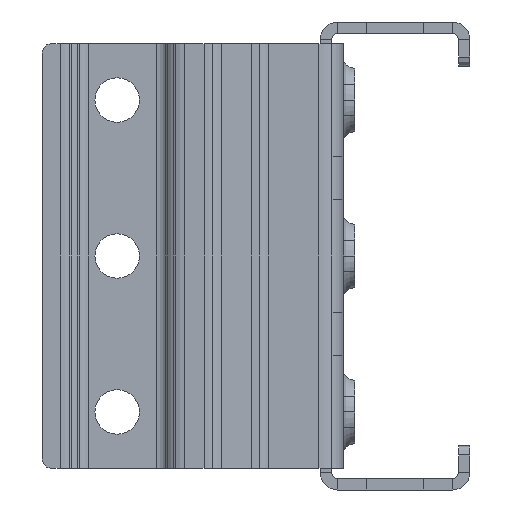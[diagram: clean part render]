
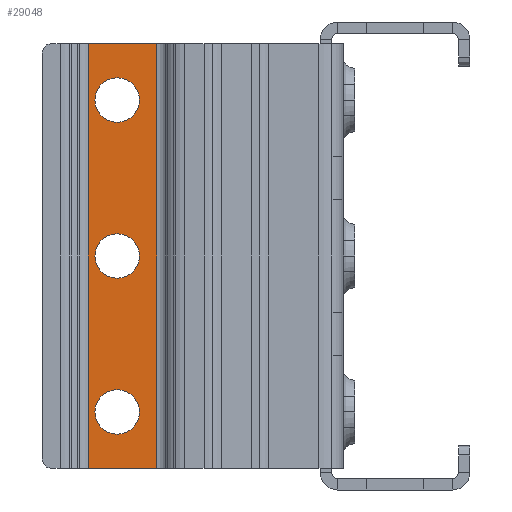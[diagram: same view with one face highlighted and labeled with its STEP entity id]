
A CAD part, left-side view. The second image highlights one B-rep face of the part: STEP entity #29048.
In plain terms, the highlighted planar face has unit normal (-1, 0, 0) as drawn and (0, 0, -1) by its records, which use the part's own axes.
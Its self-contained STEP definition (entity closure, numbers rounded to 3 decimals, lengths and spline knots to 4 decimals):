
#3097 = EDGE_CURVE ( 'NONE', #36203, #36204, #49750, .T. ) ;
#3104 = EDGE_CURVE ( 'NONE', #36207, #36208, #49757, .T. ) ;
#3110 = EDGE_CURVE ( 'NONE', #36211, #36212, #49762, .T. ) ;
#29048 = ADVANCED_FACE ( 'NONE', ( #53051, #53058, #53060, #53062 ), #57217, .T. ) ;
#33702 = ORIENTED_EDGE ( 'NONE', *, *, #36479, .T. ) ;
#33703 = ORIENTED_EDGE ( 'NONE', *, *, #3097, .T. ) ;
#33704 = ORIENTED_EDGE ( 'NONE', *, *, #36480, .T. ) ;
#33705 = ORIENTED_EDGE ( 'NONE', *, *, #3104, .T. ) ;
#33706 = ORIENTED_EDGE ( 'NONE', *, *, #36478, .T. ) ;
#33707 = ORIENTED_EDGE ( 'NONE', *, *, #3110, .T. ) ;
#33708 = ORIENTED_EDGE ( 'NONE', *, *, #36450, .F. ) ;
#33709 = ORIENTED_EDGE ( 'NONE', *, *, #36474, .F. ) ;
#33710 = ORIENTED_EDGE ( 'NONE', *, *, #36431, .T. ) ;
#33711 = ORIENTED_EDGE ( 'NONE', *, *, #36475, .T. ) ;
#35929 = EDGE_LOOP ( 'NONE', ( #33702, #33703 ) ) ;
#35932 = EDGE_LOOP ( 'NONE', ( #33704, #33705 ) ) ;
#35933 = EDGE_LOOP ( 'NONE', ( #33706, #33707 ) ) ;
#35934 = EDGE_LOOP ( 'NONE', ( #33708, #33709, #33710, #33711 ) ) ;
#36203 = VERTEX_POINT ( 'NONE', #66242 ) ;
#36204 = VERTEX_POINT ( 'NONE', #66243 ) ;
#36207 = VERTEX_POINT ( 'NONE', #66246 ) ;
#36208 = VERTEX_POINT ( 'NONE', #66247 ) ;
#36211 = VERTEX_POINT ( 'NONE', #66250 ) ;
#36212 = VERTEX_POINT ( 'NONE', #66251 ) ;
#36270 = VERTEX_POINT ( 'NONE', #66309 ) ;
#36272 = VERTEX_POINT ( 'NONE', #66311 ) ;
#36276 = VERTEX_POINT ( 'NONE', #66315 ) ;
#36282 = VERTEX_POINT ( 'NONE', #66321 ) ;
#36431 = EDGE_CURVE ( 'NONE', #36270, #36272, #64772, .T. ) ;
#36450 = EDGE_CURVE ( 'NONE', #36276, #36282, #64804, .T. ) ;
#36474 = EDGE_CURVE ( 'NONE', #36270, #36276, #64851, .T. ) ;
#36475 = EDGE_CURVE ( 'NONE', #36272, #36282, #64853, .T. ) ;
#36478 = EDGE_CURVE ( 'NONE', #36212, #36211, #64860, .T. ) ;
#36479 = EDGE_CURVE ( 'NONE', #36204, #36203, #64862, .T. ) ;
#36480 = EDGE_CURVE ( 'NONE', #36208, #36207, #64864, .T. ) ;
#45690 = AXIS2_PLACEMENT_3D ( 'NONE', #50881, #50883, #50884 ) ;
#45692 = AXIS2_PLACEMENT_3D ( 'NONE', #50891, #50893, #50894 ) ;
#45694 = AXIS2_PLACEMENT_3D ( 'NONE', #50895, #50903, #50904 ) ;
#49750 = CIRCLE ( 'NONE', #45690, 0.1405 ) ;
#49757 = CIRCLE ( 'NONE', #45692, 0.1405 ) ;
#49762 = CIRCLE ( 'NONE', #45694, 0.1405 ) ;
#50881 = CARTESIAN_POINT ( 'NONE',  ( 0.984, -1.425, -0.231 ) ) ;
#50883 = DIRECTION ( 'NONE',  ( 0., 0., 1. ) ) ;
#50884 = DIRECTION ( 'NONE',  ( 1., 0., 0. ) ) ;
#50891 = CARTESIAN_POINT ( 'NONE',  ( 0., -1.425, -0.231 ) ) ;
#50893 = DIRECTION ( 'NONE',  ( 0., 0., 1. ) ) ;
#50894 = DIRECTION ( 'NONE',  ( 1., 0., 0. ) ) ;
#50895 = CARTESIAN_POINT ( 'NONE',  ( -0.984, -1.425, -0.231 ) ) ;
#50903 = DIRECTION ( 'NONE',  ( 0., 0., 1. ) ) ;
#50904 = DIRECTION ( 'NONE',  ( 1., 0., 0. ) ) ;
#53051 = FACE_BOUND ( 'NONE', #35929, .T. ) ;
#53058 = FACE_BOUND ( 'NONE', #35932, .T. ) ;
#53060 = FACE_BOUND ( 'NONE', #35933, .T. ) ;
#53062 = FACE_OUTER_BOUND ( 'NONE', #35934, .T. ) ;
#55073 = AXIS2_PLACEMENT_3D ( 'NONE', #57220, #57221, #57222 ) ;
#57217 = PLANE ( 'NONE',  #55073 ) ;
#57220 = CARTESIAN_POINT ( 'NONE',  ( 1.34, -1.142, -0.231 ) ) ;
#57221 = DIRECTION ( 'NONE',  ( 0., 0., -1. ) ) ;
#57222 = DIRECTION ( 'NONE',  ( 0., 1., 0. ) ) ;
#62950 = AXIS2_PLACEMENT_3D ( 'NONE', #66715, #66732, #66733 ) ;
#62951 = AXIS2_PLACEMENT_3D ( 'NONE', #66708, #66729, #66730 ) ;
#62952 = AXIS2_PLACEMENT_3D ( 'NONE', #66728, #66735, #66736 ) ;
#64772 = LINE ( 'NONE', #66617, #64780 ) ;
#64780 = VECTOR ( 'NONE', #66620, 39.3701 ) ;
#64804 = LINE ( 'NONE', #66662, #64811 ) ;
#64811 = VECTOR ( 'NONE', #66665, 39.3701 ) ;
#64851 = LINE ( 'NONE', #66720, #64852 ) ;
#64852 = VECTOR ( 'NONE', #66721, 39.3701 ) ;
#64853 = LINE ( 'NONE', #66722, #64854 ) ;
#64854 = VECTOR ( 'NONE', #66723, 39.3701 ) ;
#64860 = CIRCLE ( 'NONE', #62951, 0.1405 ) ;
#64862 = CIRCLE ( 'NONE', #62950, 0.1405 ) ;
#64864 = CIRCLE ( 'NONE', #62952, 0.1405 ) ;
#66242 = CARTESIAN_POINT ( 'NONE',  ( 0.8435, -1.425, -0.231 ) ) ;
#66243 = CARTESIAN_POINT ( 'NONE',  ( 1.1245, -1.425, -0.231 ) ) ;
#66246 = CARTESIAN_POINT ( 'NONE',  ( -0.1405, -1.425, -0.231 ) ) ;
#66247 = CARTESIAN_POINT ( 'NONE',  ( 0.1405, -1.425, -0.231 ) ) ;
#66250 = CARTESIAN_POINT ( 'NONE',  ( -1.1245, -1.425, -0.231 ) ) ;
#66251 = CARTESIAN_POINT ( 'NONE',  ( -0.8435, -1.425, -0.231 ) ) ;
#66309 = CARTESIAN_POINT ( 'NONE',  ( 1.34, -1.1751, -0.231 ) ) ;
#66311 = CARTESIAN_POINT ( 'NONE',  ( 1.34, -1.6079, -0.231 ) ) ;
#66315 = CARTESIAN_POINT ( 'NONE',  ( -1.34, -1.1751, -0.231 ) ) ;
#66321 = CARTESIAN_POINT ( 'NONE',  ( -1.34, -1.6079, -0.231 ) ) ;
#66617 = CARTESIAN_POINT ( 'NONE',  ( 1.34, -1.142, -0.231 ) ) ;
#66620 = DIRECTION ( 'NONE',  ( 0., -1., 0. ) ) ;
#66662 = CARTESIAN_POINT ( 'NONE',  ( -1.34, -1.142, -0.231 ) ) ;
#66665 = DIRECTION ( 'NONE',  ( 0., -1., 0. ) ) ;
#66708 = CARTESIAN_POINT ( 'NONE',  ( -0.984, -1.425, -0.231 ) ) ;
#66715 = CARTESIAN_POINT ( 'NONE',  ( 0.984, -1.425, -0.231 ) ) ;
#66720 = CARTESIAN_POINT ( 'NONE',  ( 1.34, -1.1751, -0.231 ) ) ;
#66721 = DIRECTION ( 'NONE',  ( -1., 0., 0. ) ) ;
#66722 = CARTESIAN_POINT ( 'NONE',  ( 1.34, -1.6079, -0.231 ) ) ;
#66723 = DIRECTION ( 'NONE',  ( -1., 0., 0. ) ) ;
#66728 = CARTESIAN_POINT ( 'NONE',  ( 0., -1.425, -0.231 ) ) ;
#66729 = DIRECTION ( 'NONE',  ( 0., 0., 1. ) ) ;
#66730 = DIRECTION ( 'NONE',  ( 1., 0., 0. ) ) ;
#66732 = DIRECTION ( 'NONE',  ( 0., 0., 1. ) ) ;
#66733 = DIRECTION ( 'NONE',  ( 1., 0., 0. ) ) ;
#66735 = DIRECTION ( 'NONE',  ( 0., 0., 1. ) ) ;
#66736 = DIRECTION ( 'NONE',  ( 1., 0., 0. ) ) ;
